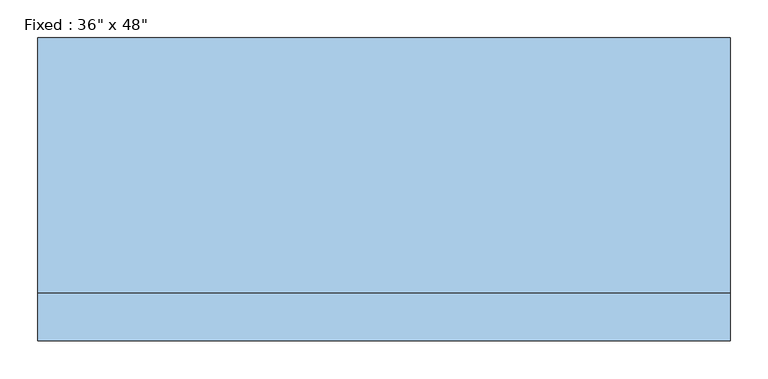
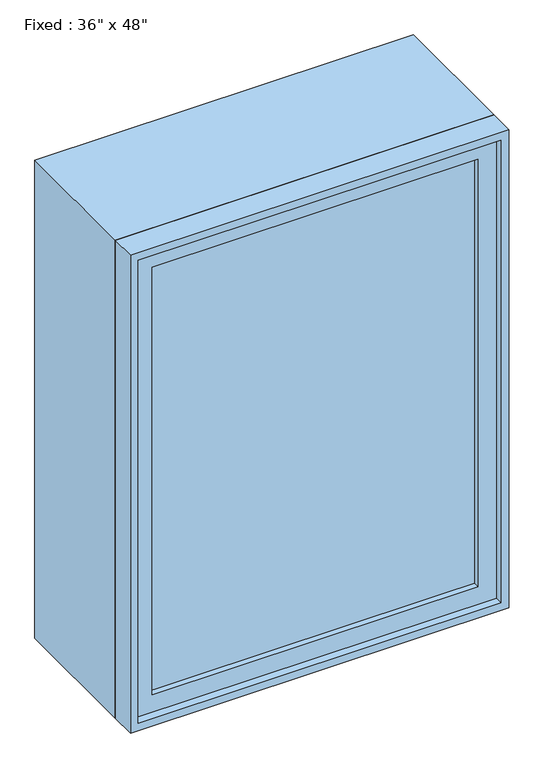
"""IFC4 building model written with IfcOpenShell, lengths in millimetres: window geometry."""

from ifc_helpers import new_model, si_unit, frame, origin, place, context, project, spatial, polyline, outline, extrude, source, transform, mapped, element, save


def window_89604b62(model_context):
    return source(origin(), model_context, "Body", "SweptSolid", [
        extrude(outline(polyline([(355.6, -152.375), (355.6, -165.075), (-431.8, -165.075), (-431.8, -152.375), (355.6, -152.375)])), frame((0.0, 0.0, 977.9), z_axis=(0.0, 0.0, 1.0), x_axis=(1.0, 0.0, 0.0)), (0.0, 0.0, 1.0), 1092.2),
        extrude(outline(polyline([(2114.55, -476.25), (933.45, -476.25), (933.45, 400.05), (2114.55, 400.05), (2114.55, -476.25)]), holes=[polyline([(2070.1, -431.8), (2070.1, 355.6), (977.9, 355.6), (977.9, -431.8), (2070.1, -431.8)])]), frame((0.0, -180.95, 0.0), z_axis=(0.0, 1.0, 0.0), x_axis=(0.0, 0.0, 1.0)), (0.0, 0.0, 1.0), 44.45),
        extrude(outline(polyline([(2133.6, -495.3), (914.4, -495.3), (914.4, 419.1), (2133.6, 419.1), (2133.6, -495.3)]), holes=[polyline([(2101.85, -463.55), (2101.85, 387.35), (946.15, 387.35), (946.15, -463.55), (2101.85, -463.55)])]), frame((0.0, -136.5, 0.0), z_axis=(0.0, 1.0, 0.0), x_axis=(0.0, 0.0, 1.0)), (0.0, 0.0, 1.0), 336.5),
        extrude(outline(polyline([(2133.6, 419.1), (2133.6, -495.3), (914.4, -495.3), (914.4, 419.1), (2133.6, 419.1)]), holes=[polyline([(2114.55, 400.05), (933.45, 400.05), (933.45, -476.25), (2114.55, -476.25), (2114.55, 400.05)])]), frame((0.0, -200.0, 0.0), z_axis=(0.0, 1.0, 0.0), x_axis=(0.0, 0.0, 1.0)), (0.0, 0.0, 1.0), 63.5),
    ])


if __name__ == "__main__":
    model = new_model("IFC4")
    model_context = context("Model", 3, world=origin())
    ifc_project = project(units=[si_unit("LENGTHUNIT", "METRE", prefix="MILLI")], contexts=[model_context])
    site = spatial("IfcSite", under=ifc_project)
    building = spatial("IfcBuilding", under=site)
    placement = place(None, origin())
    window_shape = window_89604b62(model_context)
    element("IfcWindow", 1, ObjectType="Fixed : 36\" x 48\"", at=placement, inside=building, context=model_context, shape_type="MappedRepresentation", body=[
        mapped(window_shape, transform((0.0, 0.0, 0.0), x_axis=(1.0, 0.0, 0.0), y_axis=(0.0, 1.0, 0.0), z_axis=(0.0, 0.0, 1.0))),
    ])
    save(model, "model.ifc")
